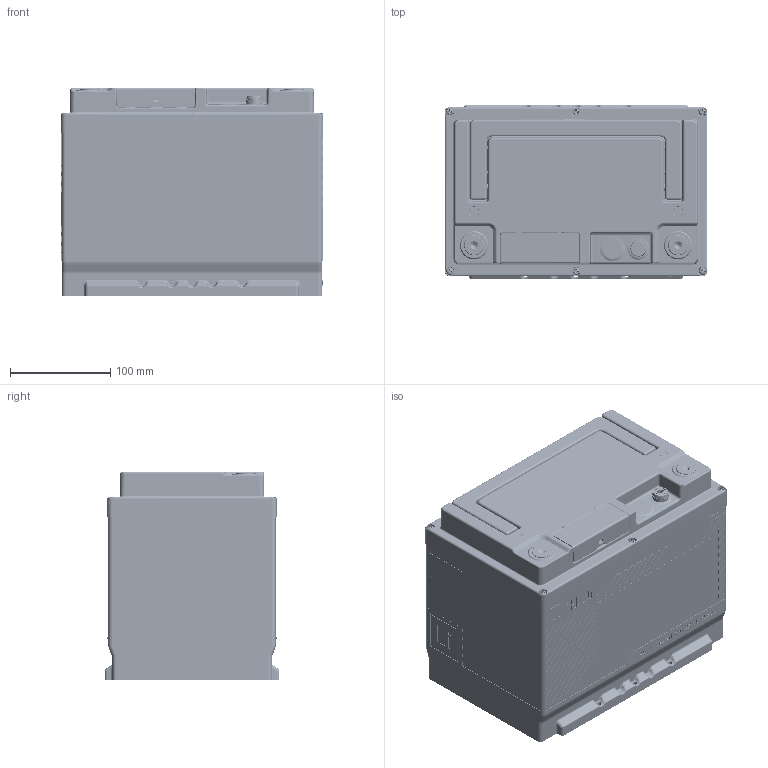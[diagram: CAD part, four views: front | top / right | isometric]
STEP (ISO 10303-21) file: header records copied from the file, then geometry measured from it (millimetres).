
FILE_DESCRIPTION((''),'2;1');
FILE_NAME('AES-B-G24-12V_ASM','2024-04-26T18:32:13',('Administrator'),(''),'CREO PARAMETRIC BY PTC INC, 2019224','CREO PARAMETRIC BY PTC INC, 2019224','');
FILE_SCHEMA(('AUTOMOTIVE_DESIGN { 1 0 10303 214 1 1 1 1 }'));
Products named in the file (73): SHANGGAI02_10; NUT_M3_4; TONGLUOZHU-01_A2_4; TONGLUOZHU-03_4; SHANGGAI02_ASM_5_ASM; TISHOU_4; TOUQIFA-2_4; GAIBAN_4; RONGDUANQI-2_4; M8_GB6177_4; XIANGGAI_NEW_ASM_4_ASM; XIANGTI_4; L3-1_5_1; L3-1_5_2; L3-1_5_3; L3-1_5_4; L3-1_5_5; L3-1_5_6; L3-1_5_7; L3-1_5_8; L3-1_5_9; L3-1_5_10; L3-1_5_11; L3-1_5_12; L3-1_5_13; L3-1_5_14; L3-1_5_15; L3-1_5_16; L3-1_5_17; L3-1_5_18; L3-1_5_19; L3-1_5_20; L3-1_5_21; L3-1_5_22; L3-1_5_23; L3-1_5_24; L3-1_5_25; L3-1_5_26; L3-1_5_27; L3-1_5_28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
Assembly tree (90 placements, depth 6):
  AES-B-G24-12V_ASM
    00-DLB2_0-G24_ASM_9_ASM
      XIANGGAI_NEW_ASM_4_ASM
        SHANGGAI02_ASM_5_ASM
          SHANGGAI02_10
          NUT_M3_4  x4
          TONGLUOZHU-01_A2_4  x2
          TONGLUOZHU-03_4  x2
        TISHOU_4
        TOUQIFA-2_4
        GAIBAN_4
        RONGDUANQI-2_4
        M8_GB6177_4  x2
      XIANGTI_ASM_4_ASM
        XIAGAI_ASM_4_ASM
          XIANGTI_4
          L3-1_5_ASM  x2
            L3-1_5_1
            L3-1_5_2
            L3-1_5_3
            L3-1_5_4
            L3-1_5_5
            L3-1_5_6
            L3-1_5_7
            L3-1_5_8
            L3-1_5_9
            L3-1_5_10
            L3-1_5_11
            L3-1_5_12
            L3-1_5_13
            L3-1_5_14
            L3-1_5_15
            L3-1_5_16
            L3-1_5_17
            L3-1_5_18
            L3-1_5_19
            L3-1_5_20
            L3-1_5_21
            L3-1_5_22
            L3-1_5_23
            L3-1_5_24
            L3-1_5_25
            L3-1_5_26
            L3-1_5_27
            L3-1_5_28
            L3-1_5_29
            L3-1_5_30
            L3-1_5_31
            L3-1_5_32
            L3-1_5_33
            L3-1_5_34
            L3-1_5_35
            L3-1_5_36
            L3-1_5_37
          L3-2_7_ASM  x2
            L3-2_7_1
            L3-2_7_2
            L3-2_7_3
            L3-2_7_4
            L3-2_7_5
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Bounding box: 262 x 174.4 x 208 mm (x, y, z)
Volume: 735572.9 mm3; surface area: 820991.2 mm2
Topology: 135 solids, 151 shells, 7664 faces, 24092 edges, 18598 vertices
Faces by surface type: plane 3717, cylinder 2466, bspline 540, cone 402, sphere 264, extrusion 136, torus 127, revolution 12
Entity records: 241806 total; most frequent: CARTESIAN_POINT 79519, ORIENTED_EDGE 25092, DIRECTION 23822, EDGE_CURVE 12564, PRESENTATION_STYLE_ASSIGNMENT 11456, STYLED_ITEM 11442, CURVE_STYLE 10841, VECTOR 8370
